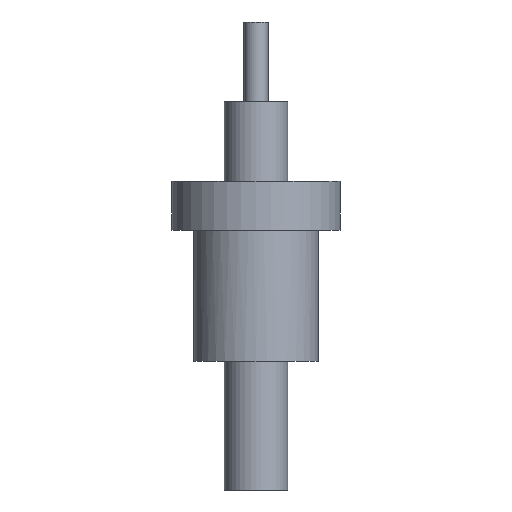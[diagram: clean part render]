
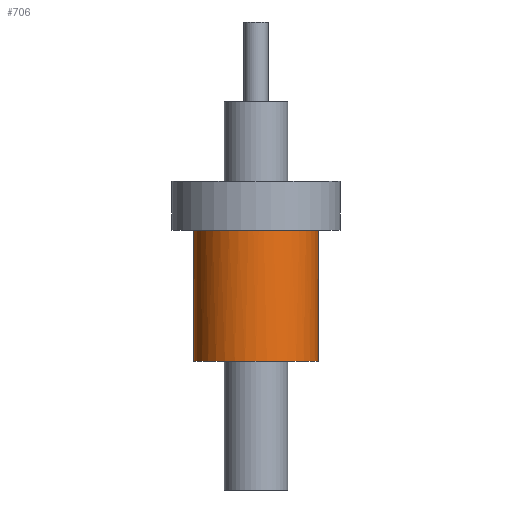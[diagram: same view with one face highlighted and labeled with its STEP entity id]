
A CAD part, front view. The second image highlights one B-rep face of the part: STEP entity #706.
In plain terms, the highlighted cylindrical face has radius 12.319 mm (diameter 24.638 mm), a partial arc.
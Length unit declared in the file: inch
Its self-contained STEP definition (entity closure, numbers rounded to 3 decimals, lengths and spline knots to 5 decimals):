
#97 = CARTESIAN_POINT ( 'NONE',  ( -0.06018, -0.48125, 0. ) ) ;
#123 = CARTESIAN_POINT ( 'NONE',  ( 0., 0., 0. ) ) ;
#227 = VECTOR ( 'NONE', #1426, 39.37008 ) ;
#290 = CIRCLE ( 'NONE', #2364, 0.485 ) ;
#303 = LINE ( 'NONE', #536, #227 ) ;
#336 = ORIENTED_EDGE ( 'NONE', *, *, #2145, .T. ) ;
#424 = VERTEX_POINT ( 'NONE', #2219 ) ;
#504 = EDGE_LOOP ( 'NONE', ( #2822, #2160, #2200, #2744, #336, #1508 ) ) ;
#536 = CARTESIAN_POINT ( 'NONE',  ( -0.485, 0., 0.38 ) ) ;
#628 = AXIS2_PLACEMENT_3D ( 'NONE', #2853, #1464, #1188 ) ;
#629 = DIRECTION ( 'NONE',  ( -1., 0., 0. ) ) ;
#706 = ADVANCED_FACE ( 'NONE', ( #3043 ), #2552, .T. ) ;
#709 = VERTEX_POINT ( 'NONE', #97 ) ;
#763 = EDGE_CURVE ( 'NONE', #709, #424, #2680, .T. ) ;
#944 = CARTESIAN_POINT ( 'NONE',  ( 0.06018, -0.48125, 0. ) ) ;
#974 = DIRECTION ( 'NONE',  ( -1., 0., 0. ) ) ;
#1069 = VERTEX_POINT ( 'NONE', #3029 ) ;
#1087 = AXIS2_PLACEMENT_3D ( 'NONE', #2942, #1546, #974 ) ;
#1188 = DIRECTION ( 'NONE',  ( -1., 0., 0. ) ) ;
#1268 = VERTEX_POINT ( 'NONE', #2730 ) ;
#1426 = DIRECTION ( 'NONE',  ( 0., 0., -1. ) ) ;
#1440 = CARTESIAN_POINT ( 'NONE',  ( 0.485, 0., 0.38 ) ) ;
#1464 = DIRECTION ( 'NONE',  ( 0., 0., -1. ) ) ;
#1497 = EDGE_CURVE ( 'NONE', #1268, #2439, #3084, .T. ) ;
#1508 = ORIENTED_EDGE ( 'NONE', *, *, #2250, .T. ) ;
#1517 = VECTOR ( 'NONE', #2569, 39.37008 ) ;
#1546 = DIRECTION ( 'NONE',  ( 0., 0., -1. ) ) ;
#1591 = VERTEX_POINT ( 'NONE', #1948 ) ;
#1746 = EDGE_CURVE ( 'NONE', #1268, #1069, #3100, .T. ) ;
#1940 = CIRCLE ( 'NONE', #2367, 0.485 ) ;
#1948 = CARTESIAN_POINT ( 'NONE',  ( -0.485, 0., -1.02 ) ) ;
#2032 = DIRECTION ( 'NONE',  ( -1., 0., 0. ) ) ;
#2055 = DIRECTION ( 'NONE',  ( 0., 0., 1. ) ) ;
#2111 = AXIS2_PLACEMENT_3D ( 'NONE', #2362, #2344, #2628 ) ;
#2114 = CARTESIAN_POINT ( 'NONE',  ( 0., 0., -1.02 ) ) ;
#2145 = EDGE_CURVE ( 'NONE', #424, #1591, #303, .T. ) ;
#2160 = ORIENTED_EDGE ( 'NONE', *, *, #1497, .T. ) ;
#2200 = ORIENTED_EDGE ( 'NONE', *, *, #2345, .T. ) ;
#2219 = CARTESIAN_POINT ( 'NONE',  ( -0.485, 0., 0. ) ) ;
#2250 = EDGE_CURVE ( 'NONE', #1591, #1069, #290, .T. ) ;
#2344 = DIRECTION ( 'NONE',  ( 0., 0., -1. ) ) ;
#2345 = EDGE_CURVE ( 'NONE', #2439, #709, #1940, .T. ) ;
#2362 = CARTESIAN_POINT ( 'NONE',  ( 0., 0., 0.38 ) ) ;
#2364 = AXIS2_PLACEMENT_3D ( 'NONE', #2114, #2055, #2032 ) ;
#2367 = AXIS2_PLACEMENT_3D ( 'NONE', #123, #2595, #629 ) ;
#2439 = VERTEX_POINT ( 'NONE', #944 ) ;
#2552 = CYLINDRICAL_SURFACE ( 'NONE', #2111, 0.485 ) ;
#2569 = DIRECTION ( 'NONE',  ( 0., 0., -1. ) ) ;
#2595 = DIRECTION ( 'NONE',  ( 0., 0., -1. ) ) ;
#2628 = DIRECTION ( 'NONE',  ( -1., 0., 0. ) ) ;
#2680 = CIRCLE ( 'NONE', #1087, 0.485 ) ;
#2730 = CARTESIAN_POINT ( 'NONE',  ( 0.485, 0., 0. ) ) ;
#2744 = ORIENTED_EDGE ( 'NONE', *, *, #763, .T. ) ;
#2822 = ORIENTED_EDGE ( 'NONE', *, *, #1746, .F. ) ;
#2853 = CARTESIAN_POINT ( 'NONE',  ( 0., 0., 0. ) ) ;
#2942 = CARTESIAN_POINT ( 'NONE',  ( 0., 0., 0. ) ) ;
#3029 = CARTESIAN_POINT ( 'NONE',  ( 0.485, 0., -1.02 ) ) ;
#3043 = FACE_OUTER_BOUND ( 'NONE', #504, .T. ) ;
#3084 = CIRCLE ( 'NONE', #628, 0.485 ) ;
#3100 = LINE ( 'NONE', #1440, #1517 ) ;
